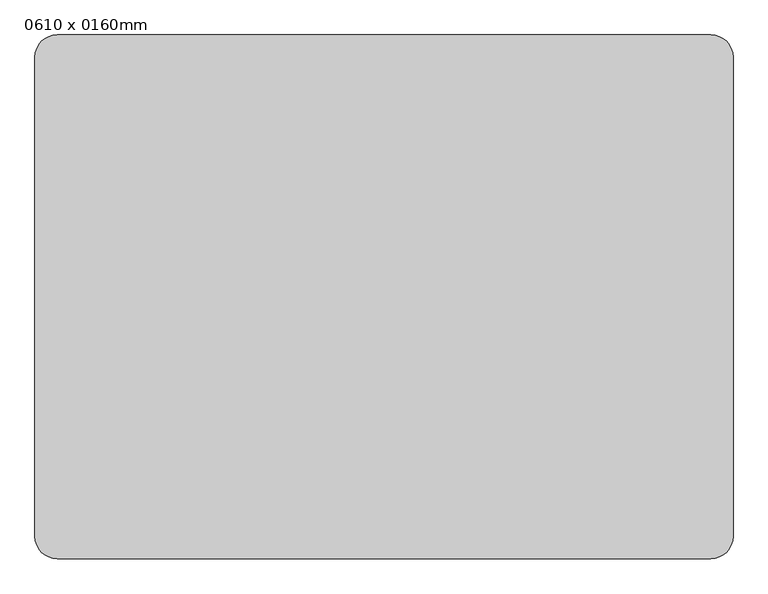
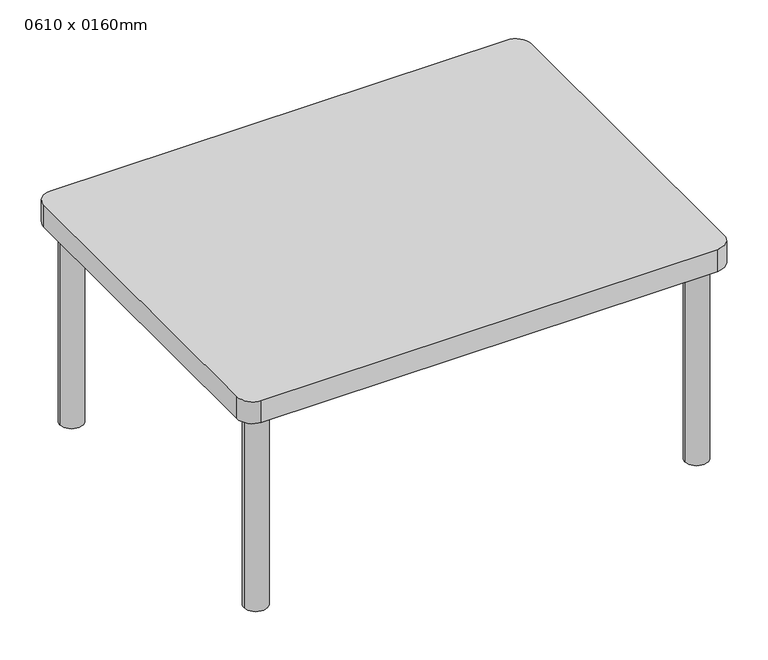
"""IFC4 building model written with IfcOpenShell, lengths in millimetres: furniture geometry, 边桌3 : 0610 x 0160mm."""

import ifcopenshell
import ifcopenshell.guid

model = None  # the IFC model being written
_history = None  # IfcOwnerHistory: only IFC2X3 demands one
_inside = {}  # id of a spatial element -> (the spatial element, [elements in it])
_under = {}  # id of a project, library or spatial element -> (it, [spatial elements below it])
_declared = {}  # id of a project -> (the project, [libraries it declares])
_typed = {}  # id of a type object -> (the type object, [elements of that type])
_made_of = {}  # id of a material, layer set ... -> (it, [elements and type objects made of it])


def new_model(schema):
    """Start an empty IFC model of exactly this schema.

    Asked for "IFC4X3", IfcOpenShell would pick the latest addendum, in which some entities
    have other attributes; the version numbers below select the first issue.
    IFC2X3 requires an IfcOwnerHistory on every rooted entity: one is made here for all.
    """
    global model, _history
    if schema == "IFC4X3":
        model = ifcopenshell.file(schema_version=(4, 3, 0, 0))
    else:
        model = ifcopenshell.file(schema=schema)
    _inside.clear()
    _under.clear()
    _declared.clear()
    _typed.clear()
    _made_of.clear()
    _history = None
    if model.schema == "IFC2X3":
        org = make("IfcOrganization", Name="unknown")
        user = make(
            "IfcPersonAndOrganization",
            ThePerson=make("IfcPerson", FamilyName="unknown"),
            TheOrganization=org,
        )
        app = make(
            "IfcApplication",
            ApplicationDeveloper=org,
            Version="unknown",
            ApplicationFullName="unknown",
            ApplicationIdentifier="unknown",
        )
        _history = make(
            "IfcOwnerHistory",
            OwningUser=user,
            OwningApplication=app,
            ChangeAction="ADDED",
            CreationDate=0,
        )
    return model


def make(cls, **values):
    """One entity of the class cls with the attributes given. An attribute that is None is left unset."""
    return model.create_entity(
        cls, **{name: value for name, value in values.items() if value is not None}
    )


def rooted(cls, **values):
    """An entity with a GlobalId (a new one), such as an element, a storey or a relation."""
    return make(cls, GlobalId=ifcopenshell.guid.new(), OwnerHistory=_history, **values)


def si_unit(unit_type, name, prefix=None):
    """IfcSIUnit, for example si_unit("LENGTHUNIT", "METRE", prefix="MILLI")."""
    return make("IfcSIUnit", UnitType=unit_type, Prefix=prefix, Name=name)


def assignment(units):
    """IfcUnitAssignment: the units of a project."""
    return None if units is None else make("IfcUnitAssignment", Units=units)


def point(xyz):
    """IfcCartesianPoint."""
    return None if xyz is None else make("IfcCartesianPoint", Coordinates=xyz)


def direction(xyz):
    """IfcDirection."""
    return None if xyz is None else make("IfcDirection", DirectionRatios=xyz)


def frame(location, z_axis=None, x_axis=None):
    """IfcAxis2Placement3D, a coordinate frame: its origin and axes. An axis left out is left unset."""
    return make(
        "IfcAxis2Placement3D",
        Location=point(location),
        Axis=direction(z_axis),
        RefDirection=direction(x_axis),
    )


def frame_2d(location, x_axis=None):
    """IfcAxis2Placement2D, a coordinate frame in the plane: its origin and x axis."""
    return make(
        "IfcAxis2Placement2D", Location=point(location), RefDirection=direction(x_axis)
    )


def origin():
    """The frame at (0, 0, 0) with its axes left unset."""
    return frame((0.0, 0.0, 0.0))


def origin_with_axes():
    """The frame at (0, 0, 0) with the z axis (0, 0, 1) and the x axis (1, 0, 0) written out."""
    return frame((0.0, 0.0, 0.0), z_axis=(0.0, 0.0, 1.0), x_axis=(1.0, 0.0, 0.0))


def place(relative_to, where):
    """IfcLocalPlacement: puts the frame where relative to a parent placement (None: the world)."""
    return make(
        "IfcLocalPlacement", PlacementRelTo=relative_to, RelativePlacement=where
    )


def context(
    kind, dimensions, precision=None, world=None, true_north=None, identifier=None
):
    """IfcGeometricRepresentationContext, for example the 3D "Model" context."""
    return make(
        "IfcGeometricRepresentationContext",
        ContextIdentifier=identifier,
        ContextType=kind,
        CoordinateSpaceDimension=dimensions,
        Precision=precision,
        WorldCoordinateSystem=world,
        TrueNorth=true_north,
    )


def project(units=None, contexts=None):
    """IfcProject with its units and contexts."""
    return rooted(
        "IfcProject",
        Name="project",
        RepresentationContexts=contexts,
        UnitsInContext=assignment(units),
    )


def spatial(cls, under=None, at=None, **own):
    """A site, building, storey or space (cls), placed at a placement, below another one or the project."""
    s = rooted(cls, ObjectPlacement=at, **own)
    if under is not None:
        _under.setdefault(under.id(), (under, []))[1].append(s)
    return s


def polyline(points):
    """IfcPolyline through the points."""
    return make("IfcPolyline", Points=[point(p) for p in points])


def circle_curve(where, radius):
    """IfcCircle in the frame where."""
    return make("IfcCircle", Position=where, Radius=radius)


def trimmed(basis, trim1, trim2, sense, master):
    """IfcTrimmedCurve: the piece of a basis curve between two trims."""
    return make(
        "IfcTrimmedCurve",
        BasisCurve=basis,
        Trim1=trim1,
        Trim2=trim2,
        SenseAgreement=sense,
        MasterRepresentation=master,
    )


def segment(curve, same_sense, transition):
    """IfcCompositeCurveSegment."""
    return make(
        "IfcCompositeCurveSegment",
        Transition=transition,
        SameSense=same_sense,
        ParentCurve=curve,
    )


def composite_curve(segments, self_intersect=None):
    """IfcCompositeCurve: segments joined end to end."""
    return make("IfcCompositeCurve", Segments=segments, SelfIntersect=self_intersect)


def outline(outer, holes=None, kind="AREA"):
    """IfcArbitraryClosedProfileDef: a profile drawn as a closed curve; with holes, ...WithVoids."""
    if holes is None:
        return make("IfcArbitraryClosedProfileDef", ProfileType=kind, OuterCurve=outer)
    return make(
        "IfcArbitraryProfileDefWithVoids",
        ProfileType=kind,
        OuterCurve=outer,
        InnerCurves=holes,
    )


def extrude(swept, where, along, depth):
    """IfcExtrudedAreaSolid: the profile swept, set in the frame where, extruded along a direction by depth."""
    return make(
        "IfcExtrudedAreaSolid",
        SweptArea=swept,
        Position=where,
        ExtrudedDirection=direction(along),
        Depth=depth,
    )


def shape(context_of_items, identifier, shape_type, items):
    """IfcShapeRepresentation: the items that make up one representation, for example the "Body"."""
    return make(
        "IfcShapeRepresentation",
        ContextOfItems=context_of_items,
        RepresentationIdentifier=identifier,
        RepresentationType=shape_type,
        Items=items,
    )


def source(mapping_origin, context_of_items, identifier, shape_type, items):
    """IfcRepresentationMap: a shape defined once, which mapped items show again and again."""
    return make(
        "IfcRepresentationMap",
        MappingOrigin=mapping_origin,
        MappedRepresentation=shape(context_of_items, identifier, shape_type, items),
    )


def transform(
    local_origin,
    x_axis=None,
    y_axis=None,
    z_axis=None,
    scale=None,
    scale2=None,
    scale3=None,
    uniform=True,
):
    """IfcCartesianTransformationOperator3D, or its non-uniform kind. x_axis, y_axis, z_axis: its Axis1, 2, 3."""
    if uniform:
        return make(
            "IfcCartesianTransformationOperator3D",
            Axis1=direction(x_axis),
            Axis2=direction(y_axis),
            LocalOrigin=point(local_origin),
            Scale=scale,
            Axis3=direction(z_axis),
        )
    return make(
        "IfcCartesianTransformationOperator3DnonUniform",
        Axis1=direction(x_axis),
        Axis2=direction(y_axis),
        LocalOrigin=point(local_origin),
        Scale=scale,
        Axis3=direction(z_axis),
        Scale2=scale2,
        Scale3=scale3,
    )


def mapped(mapping_source, mapping_target):
    """IfcMappedItem: shows the shape of a source again, moved by a transform."""
    return make(
        "IfcMappedItem", MappingSource=mapping_source, MappingTarget=mapping_target
    )


def made_of(thing, what):
    """Note that an element or type object is made of a material, layer set ...; save() writes the relation."""
    if what is not None:
        _made_of.setdefault(what.id(), (what, []))[1].append(thing)
    return thing


def element(
    cls,
    number,
    at=None,
    inside=None,
    cuts=None,
    type_object=None,
    material=None,
    context=None,
    identifier="Body",
    shape_type=None,
    held_by="IfcProductDefinitionShape",
    body=None,
    shapes=None,
    **own,
):
    """One element of the class cls, such as IfcWall. Its Tag is "e" and its number.

    at: its placement. inside: the storey or other place that contains it. cuts: it is an
    opening in that element (IfcRelVoidsElement). A single representation is given by context,
    identifier, shape_type and body (its items); several are given by shapes. held_by: the class
    of the entity that holds the representations. save() writes the other relations.
    """
    e = rooted(cls, Tag="e%d" % number, ObjectPlacement=at, **own)
    if body is not None:
        shapes = [shape(context, identifier, shape_type, body)]
    if shapes is not None:
        e.Representation = make(held_by, Representations=shapes)
    if inside is not None:
        _inside.setdefault(inside.id(), (inside, []))[1].append(e)
    if cuts is not None:
        rooted(
            "IfcRelVoidsElement", RelatingBuildingElement=cuts, RelatedOpeningElement=e
        )
    if type_object is not None:
        _typed.setdefault(type_object.id(), (type_object, []))[1].append(e)
    return made_of(e, material)


def aggregate(whole, parts):
    """IfcRelAggregates: a whole, such as a stair, and the parts it consists of."""
    return rooted("IfcRelAggregates", RelatingObject=whole, RelatedObjects=parts)


def save(model, path):
    """Write the relations noted so far, then the file.

    IfcRelAggregates (storeys below a building ...), IfcRelContainedInSpatialStructure (elements
    in a storey), IfcRelDefinesByType, IfcRelAssociatesMaterial and IfcRelDeclares: one each for
    every whole, place, type object, material and project.
    """
    for whole, parts in _under.values():
        aggregate(whole, parts)
    for where, things in _inside.values():
        rooted(
            "IfcRelContainedInSpatialStructure",
            RelatedElements=things,
            RelatingStructure=where,
        )
    for kind, things in _typed.values():
        rooted("IfcRelDefinesByType", RelatedObjects=things, RelatingType=kind)
    for what, things in _made_of.values():
        rooted("IfcRelAssociatesMaterial", RelatedObjects=things, RelatingMaterial=what)
    for by, libraries in _declared.values():
        rooted("IfcRelDeclares", RelatingContext=by, RelatedDefinitions=libraries)
    model.write(path)


def furniture_0610_x_0160mm_c25b9ccd(model_context):
    return source(origin(), model_context, "Body", "SweptSolid", [
        extrude(outline(composite_curve([segment(trimmed(circle_curve(frame_2d((1552.9336303, 396.8)), 50.8), [point((1552.9336303, 447.6))], [point((1603.7336303, 396.8))], False, "CARTESIAN"), True, "CONTINUOUS"), segment(polyline([(1603.7336303, 396.8), (1603.7336303, -701.6)]), True, "CONTINUOUS"), segment(trimmed(circle_curve(frame_2d((1552.9336303, -701.6)), 50.8), [point((1603.7336303, -701.6))], [point((1552.9336303, -752.4))], False, "CARTESIAN"), True, "CONTINUOUS"), segment(polyline([(1552.9336303, -752.4), (54.5336303, -752.4)]), True, "CONTINUOUS"), segment(trimmed(circle_curve(frame_2d((54.5336303, -701.6)), 50.8), [point((54.5336303, -752.4))], [point((3.7336303, -701.6))], False, "CARTESIAN"), True, "CONTINUOUS"), segment(polyline([(3.7336303, -701.6), (3.7336303, 396.8)]), True, "CONTINUOUS"), segment(trimmed(circle_curve(frame_2d((54.5336303, 396.8)), 50.8), [point((3.7336303, 396.8))], [point((54.5336303, 447.6))], False, "CARTESIAN"), True, "CONTINUOUS"), segment(polyline([(54.5336303, 447.6), (1552.9336303, 447.6)]), True, "CONTINUOUS")], self_intersect=False)), frame((0.0, 0.0, 685.8), z_axis=(0.0, 0.0, 1.0), x_axis=(1.0, 0.0, 0.0)), (0.0, 0.0, 1.0), 76.2),
        extrude(outline(composite_curve([segment(trimmed(circle_curve(frame_2d((79.9336303, -676.2)), 38.1), [point((41.8336303, -676.2))], [point((118.0336303, -676.2))], False, "CARTESIAN"), True, "CONTINUOUS"), segment(trimmed(circle_curve(frame_2d((79.9336303, -676.2)), 38.1), [point((118.0336303, -676.2))], [point((41.8336303, -676.2))], False, "CARTESIAN"), True, "CONTINUOUS")], self_intersect=False)), origin_with_axes(), (0.0, 0.0, 1.0), 685.8),
        extrude(outline(composite_curve([segment(trimmed(circle_curve(frame_2d((79.9336303, 371.4)), 38.1), [point((41.8336303, 371.4))], [point((118.0336303, 371.4))], False, "CARTESIAN"), True, "CONTINUOUS"), segment(trimmed(circle_curve(frame_2d((79.9336303, 371.4)), 38.1), [point((118.0336303, 371.4))], [point((41.8336303, 371.4))], False, "CARTESIAN"), True, "CONTINUOUS")], self_intersect=False)), origin_with_axes(), (0.0, 0.0, 1.0), 685.8),
        extrude(outline(composite_curve([segment(trimmed(circle_curve(frame_2d((1527.5336303, 371.4)), 38.1), [point((1489.4336303, 371.4))], [point((1565.6336303, 371.4))], False, "CARTESIAN"), True, "CONTINUOUS"), segment(trimmed(circle_curve(frame_2d((1527.5336303, 371.4)), 38.1), [point((1565.6336303, 371.4))], [point((1489.4336303, 371.4))], False, "CARTESIAN"), True, "CONTINUOUS")], self_intersect=False)), origin_with_axes(), (0.0, 0.0, 1.0), 685.8),
        extrude(outline(composite_curve([segment(trimmed(circle_curve(frame_2d((1527.5336303, -676.2)), 38.1), [point((1489.4336303, -676.2))], [point((1565.6336303, -676.2))], False, "CARTESIAN"), True, "CONTINUOUS"), segment(trimmed(circle_curve(frame_2d((1527.5336303, -676.2)), 38.1), [point((1565.6336303, -676.2))], [point((1489.4336303, -676.2))], False, "CARTESIAN"), True, "CONTINUOUS")], self_intersect=False)), origin_with_axes(), (0.0, 0.0, 1.0), 685.8),
    ])


if __name__ == "__main__":
    model = new_model("IFC4")
    model_context = context("Model", 3, world=origin())
    ifc_project = project(units=[si_unit("LENGTHUNIT", "METRE", prefix="MILLI")], contexts=[model_context])
    site = spatial("IfcSite", under=ifc_project)
    building = spatial("IfcBuilding", under=site)
    placement = place(None, origin())
    furniture_0610_x_0160mm_shape = furniture_0610_x_0160mm_c25b9ccd(model_context)
    element("IfcFurniture", 1, ObjectType="边桌3 : 0610 x 0160mm", at=placement, inside=building, context=model_context, shape_type="MappedRepresentation", body=[
        mapped(furniture_0610_x_0160mm_shape, transform((0.0, 0.0, 0.0), x_axis=(1.0, 0.0, 0.0), y_axis=(0.0, 1.0, 0.0), z_axis=(0.0, 0.0, 1.0))),
    ])
    save(model, "model.ifc")
